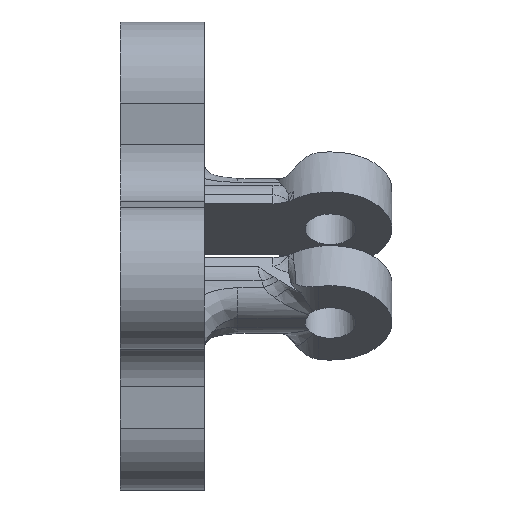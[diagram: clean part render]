
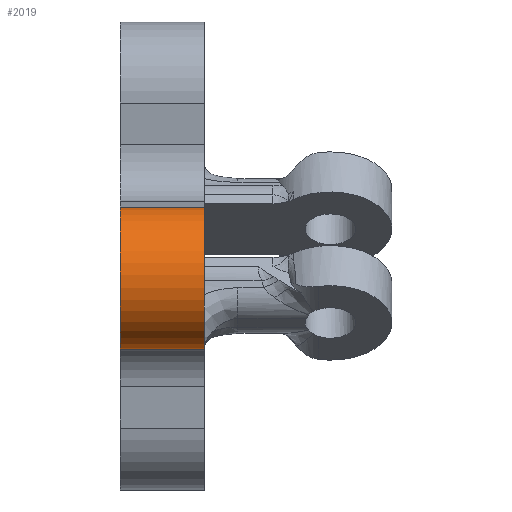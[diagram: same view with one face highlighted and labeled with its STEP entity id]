
A CAD part, left-side view. The second image highlights one B-rep face of the part: STEP entity #2019.
In plain terms, the highlighted cylindrical face has radius 4.25 mm (diameter 8.5 mm), a partial arc.
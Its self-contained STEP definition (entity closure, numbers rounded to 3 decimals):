
#164=LINE('',#4371,#288);
#165=LINE('',#4375,#289);
#288=VECTOR('',#2685,10.);
#289=VECTOR('',#2690,10.);
#354=CYLINDRICAL_SURFACE('',#2221,4.25);
#456=FACE_OUTER_BOUND('',#573,.T.);
#573=EDGE_LOOP('',(#1804,#1805,#1806,#1807));
#646=CIRCLE('',#2139,4.25);
#689=CIRCLE('',#2222,4.25);
#893=VERTEX_POINT('',#4150);
#894=VERTEX_POINT('',#4152);
#963=VERTEX_POINT('',#4369);
#964=VERTEX_POINT('',#4373);
#1148=EDGE_CURVE('',#893,#894,#646,.T.);
#1258=EDGE_CURVE('',#963,#893,#164,.T.);
#1259=EDGE_CURVE('',#964,#963,#689,.T.);
#1260=EDGE_CURVE('',#964,#894,#165,.T.);
#1804=ORIENTED_EDGE('',*,*,#1258,.F.);
#1805=ORIENTED_EDGE('',*,*,#1259,.F.);
#1806=ORIENTED_EDGE('',*,*,#1260,.T.);
#1807=ORIENTED_EDGE('',*,*,#1148,.F.);
#2019=ADVANCED_FACE('',(#456),#354,.T.);
#2139=AXIS2_PLACEMENT_3D('',#4153,#2454,#2455);
#2221=AXIS2_PLACEMENT_3D('',#4372,#2686,#2687);
#2222=AXIS2_PLACEMENT_3D('',#4374,#2688,#2689);
#2454=DIRECTION('center_axis',(0.,-1.,0.));
#2455=DIRECTION('ref_axis',(-0.134,0.,0.991));
#2685=DIRECTION('',(0.,-1.,0.));
#2686=DIRECTION('center_axis',(0.,1.,0.));
#2687=DIRECTION('ref_axis',(-0.134,0.,0.991));
#2688=DIRECTION('center_axis',(0.,1.,0.));
#2689=DIRECTION('ref_axis',(-0.134,0.,0.991));
#2690=DIRECTION('',(0.,-1.,0.));
#4150=CARTESIAN_POINT('',(-10.232,-2.5,2.905));
#4152=CARTESIAN_POINT('',(-9.093,-2.5,-5.518));
#4153=CARTESIAN_POINT('Origin',(-9.662,-2.5,-1.306));
#4369=CARTESIAN_POINT('',(-10.232,2.5,2.905));
#4371=CARTESIAN_POINT('',(-10.232,0.,2.905));
#4372=CARTESIAN_POINT('Origin',(-9.662,0.,-1.306));
#4373=CARTESIAN_POINT('',(-9.093,2.5,-5.518));
#4374=CARTESIAN_POINT('Origin',(-9.662,2.5,-1.306));
#4375=CARTESIAN_POINT('',(-9.093,0.,-5.518));
